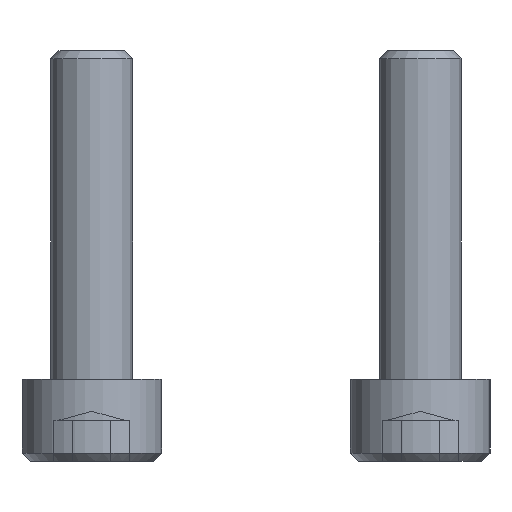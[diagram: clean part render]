
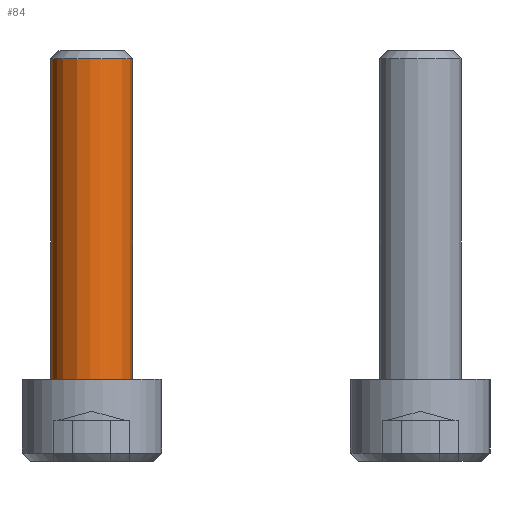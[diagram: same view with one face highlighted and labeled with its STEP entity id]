
A CAD part, left-side view. The second image highlights one B-rep face of the part: STEP entity #84.
In plain terms, the highlighted free-form (B-spline) face has degree [2, 1] with [9, 2] control points.
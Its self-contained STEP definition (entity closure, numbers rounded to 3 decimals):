
#84=ADVANCED_FACE('',(#159),#2228,.T.);
#159=FACE_OUTER_BOUND('',#234,.T.);
#234=EDGE_LOOP('',(#379,#380,#381,#382));
#379=ORIENTED_EDGE('',*,*,#1544,.F.);
#380=ORIENTED_EDGE('',*,*,#1587,.T.);
#381=ORIENTED_EDGE('',*,*,#1546,.F.);
#382=ORIENTED_EDGE('',*,*,#1586,.F.);
#644=(
BOUNDED_CURVE()
B_SPLINE_CURVE(2,(#2929,#2930,#2931,#2932,#2933),.UNSPECIFIED.,.F.,.F.)
B_SPLINE_CURVE_WITH_KNOTS((3,2,3),(-7.854,-3.927,0.),
 .UNSPECIFIED.)
CURVE()
GEOMETRIC_REPRESENTATION_ITEM()
RATIONAL_B_SPLINE_CURVE((1.,0.707,1.,0.707,1.))
REPRESENTATION_ITEM('')
);
#645=(
BOUNDED_CURVE()
B_SPLINE_CURVE(2,(#2942,#2943,#2944,#2945,#2946),.UNSPECIFIED.,.F.,.F.)
B_SPLINE_CURVE_WITH_KNOTS((3,2,3),(-7.854,-3.927,0.),
 .UNSPECIFIED.)
CURVE()
GEOMETRIC_REPRESENTATION_ITEM()
RATIONAL_B_SPLINE_CURVE((1.,0.707,1.,0.707,1.))
REPRESENTATION_ITEM('')
);
#649=(
BOUNDED_CURVE()
B_SPLINE_CURVE(2,(#2968,#2969,#2970,#2971,#2972),.UNSPECIFIED.,.F.,.F.)
B_SPLINE_CURVE_WITH_KNOTS((3,2,3),(-7.854,-3.927,0.),
 .UNSPECIFIED.)
CURVE()
GEOMETRIC_REPRESENTATION_ITEM()
RATIONAL_B_SPLINE_CURVE((1.,0.707,1.,0.707,1.))
REPRESENTATION_ITEM('')
);
#735=PCURVE('',#2223,#1059);
#737=PCURVE('',#2223,#1061);
#808=PCURVE('',#2227,#1132);
#811=PCURVE('',#2228,#1135);
#812=PCURVE('',#2228,#1136);
#813=PCURVE('',#2228,#1137);
#814=PCURVE('',#2228,#1138);
#817=PCURVE('',#2189,#1141);
#1059=DEFINITIONAL_REPRESENTATION('',(#1712),#4285);
#1061=DEFINITIONAL_REPRESENTATION('',(#1715),#4285);
#1132=DEFINITIONAL_REPRESENTATION('',(#1804),#4285);
#1135=DEFINITIONAL_REPRESENTATION('',(#1807),#4285);
#1136=DEFINITIONAL_REPRESENTATION('',(#1808),#4285);
#1137=DEFINITIONAL_REPRESENTATION('',(#1809),#4285);
#1138=DEFINITIONAL_REPRESENTATION('',(#1810),#4285);
#1141=DEFINITIONAL_REPRESENTATION('',(#649),#4285);
#1382=SURFACE_CURVE('',#1711,(#735,#811),.PCURVE_S1.);
#1384=SURFACE_CURVE('',#1714,(#737,#813),.PCURVE_S1.);
#1424=SURFACE_CURVE('',#644,(#808,#814),.PCURVE_S1.);
#1425=SURFACE_CURVE('',#645,(#812,#817),.PCURVE_S1.);
#1544=EDGE_CURVE('',#2083,#2084,#1382,.T.);
#1546=EDGE_CURVE('',#2085,#2086,#1384,.T.);
#1586=EDGE_CURVE('',#2084,#2085,#1424,.T.);
#1587=EDGE_CURVE('',#2083,#2086,#1425,.T.);
#1711=B_SPLINE_CURVE_WITH_KNOTS('',1,(#2665,#2666),.UNSPECIFIED.,.F.,.F.,
(2,2),(-19.51,0.),.UNSPECIFIED.);
#1712=B_SPLINE_CURVE_WITH_KNOTS('',1,(#2667,#2668),.UNSPECIFIED.,.F.,.F.,
(2,2),(-19.51,0.),.UNSPECIFIED.);
#1714=B_SPLINE_CURVE_WITH_KNOTS('',1,(#2676,#2677),.UNSPECIFIED.,.F.,.F.,
(2,2),(-19.51,0.),.UNSPECIFIED.);
#1715=B_SPLINE_CURVE_WITH_KNOTS('',1,(#2678,#2679),.UNSPECIFIED.,.F.,.F.,
(2,2),(-19.51,0.),.UNSPECIFIED.);
#1804=B_SPLINE_CURVE_WITH_KNOTS('',1,(#2934,#2935),.UNSPECIFIED.,.F.,.F.,
(2,2),(-7.854,0.),.UNSPECIFIED.);
#1807=B_SPLINE_CURVE_WITH_KNOTS('',1,(#2940,#2941),.UNSPECIFIED.,.F.,.F.,
(2,2),(-19.51,0.),.UNSPECIFIED.);
#1808=B_SPLINE_CURVE_WITH_KNOTS('',1,(#2947,#2948),.UNSPECIFIED.,.F.,.F.,
(2,2),(-7.854,0.),.UNSPECIFIED.);
#1809=B_SPLINE_CURVE_WITH_KNOTS('',1,(#2949,#2950),.UNSPECIFIED.,.F.,.F.,
(2,2),(-19.51,0.),.UNSPECIFIED.);
#1810=B_SPLINE_CURVE_WITH_KNOTS('',1,(#2951,#2952),.UNSPECIFIED.,.F.,.F.,
(2,2),(-7.854,0.),.UNSPECIFIED.);
#2083=VERTEX_POINT('',#2599);
#2084=VERTEX_POINT('',#2600);
#2085=VERTEX_POINT('',#2601);
#2086=VERTEX_POINT('',#2602);
#2189=PLANE('',#2306);
#2223=(
BOUNDED_SURFACE()
B_SPLINE_SURFACE(2,1,((#2434,#2435),(#2436,#2437),(#2438,#2439),(#2440,#2441),
(#2442,#2443),(#2444,#2445),(#2446,#2447),(#2448,#2449),(#2450,#2451)),
 .UNSPECIFIED.,.T.,.F.,.F.)
B_SPLINE_SURFACE_WITH_KNOTS((3,2,2,2,3),(2,2),(0.,1.571,3.142,
4.712,6.283),(0.,23.414),.UNSPECIFIED.)
GEOMETRIC_REPRESENTATION_ITEM()
RATIONAL_B_SPLINE_SURFACE(((1.,1.),(0.707,0.707),
(1.,1.),(0.707,0.707),(1.,1.),(0.707,
0.707),(1.,1.),(0.707,0.707),(1.,1.)))
REPRESENTATION_ITEM('')
SURFACE()
);
#2227=(
BOUNDED_SURFACE()
B_SPLINE_SURFACE(2,1,((#2519,#2520),(#2521,#2522),(#2523,#2524),(#2525,#2526),
(#2527,#2528),(#2529,#2530),(#2531,#2532),(#2533,#2534),(#2535,#2536)),
 .UNSPECIFIED.,.T.,.F.,.F.)
B_SPLINE_SURFACE_WITH_KNOTS((3,2,2,2,3),(2,2),(0.,1.571,3.142,
4.712,6.283),(0.,3.891),.UNSPECIFIED.)
GEOMETRIC_REPRESENTATION_ITEM()
RATIONAL_B_SPLINE_SURFACE(((1.,1.),(0.707,0.707),
(1.,1.),(0.707,0.707),(1.,1.),(0.707,
0.707),(1.,1.),(0.707,0.707),(1.,1.)))
REPRESENTATION_ITEM('')
SURFACE()
);
#2228=(
BOUNDED_SURFACE()
B_SPLINE_SURFACE(2,1,((#2537,#2538),(#2539,#2540),(#2541,#2542),(#2543,#2544),
(#2545,#2546),(#2547,#2548),(#2549,#2550),(#2551,#2552),(#2553,#2554)),
 .UNSPECIFIED.,.T.,.F.,.F.)
B_SPLINE_SURFACE_WITH_KNOTS((3,2,2,2,3),(2,2),(0.,1.571,3.142,
4.712,6.283),(0.,23.414),.UNSPECIFIED.)
GEOMETRIC_REPRESENTATION_ITEM()
RATIONAL_B_SPLINE_SURFACE(((1.,1.),(0.707,0.707),
(1.,1.),(0.707,0.707),(1.,1.),(0.707,
0.707),(1.,1.),(0.707,0.707),(1.,1.)))
REPRESENTATION_ITEM('')
SURFACE()
);
#2306=AXIS2_PLACEMENT_3D('',#2555,#2358,$);
#2358=DIRECTION('',(1.,0.,0.));
#2434=CARTESIAN_POINT('',(-1.952,0.,2.5));
#2435=CARTESIAN_POINT('',(21.462,0.,2.5));
#2436=CARTESIAN_POINT('',(-1.952,-2.5,2.5));
#2437=CARTESIAN_POINT('',(21.462,-2.5,2.5));
#2438=CARTESIAN_POINT('',(-1.952,-2.5,0.));
#2439=CARTESIAN_POINT('',(21.462,-2.5,0.));
#2440=CARTESIAN_POINT('',(-1.952,-2.5,-2.5));
#2441=CARTESIAN_POINT('',(21.462,-2.5,-2.5));
#2442=CARTESIAN_POINT('',(-1.952,0.,-2.5));
#2443=CARTESIAN_POINT('',(21.462,0.,-2.5));
#2444=CARTESIAN_POINT('',(-1.952,2.5,-2.5));
#2445=CARTESIAN_POINT('',(21.462,2.5,-2.5));
#2446=CARTESIAN_POINT('',(-1.952,2.5,0.));
#2447=CARTESIAN_POINT('',(21.462,2.5,0.));
#2448=CARTESIAN_POINT('',(-1.952,2.5,2.5));
#2449=CARTESIAN_POINT('',(21.462,2.5,2.5));
#2450=CARTESIAN_POINT('',(-1.952,0.,2.5));
#2451=CARTESIAN_POINT('',(21.462,0.,2.5));
#2519=CARTESIAN_POINT('',(22.01,0.,0.));
#2520=CARTESIAN_POINT('',(19.258,0.,-2.751));
#2521=CARTESIAN_POINT('',(22.01,0.,0.));
#2522=CARTESIAN_POINT('',(19.258,-2.751,-2.751));
#2523=CARTESIAN_POINT('',(22.01,0.,0.));
#2524=CARTESIAN_POINT('',(19.258,-2.751,0.));
#2525=CARTESIAN_POINT('',(22.01,0.,0.));
#2526=CARTESIAN_POINT('',(19.258,-2.751,2.751));
#2527=CARTESIAN_POINT('',(22.01,0.,0.));
#2528=CARTESIAN_POINT('',(19.258,0.,2.751));
#2529=CARTESIAN_POINT('',(22.01,0.,0.));
#2530=CARTESIAN_POINT('',(19.258,2.751,2.751));
#2531=CARTESIAN_POINT('',(22.01,0.,0.));
#2532=CARTESIAN_POINT('',(19.258,2.751,0.));
#2533=CARTESIAN_POINT('',(22.01,0.,0.));
#2534=CARTESIAN_POINT('',(19.258,2.751,-2.751));
#2535=CARTESIAN_POINT('',(22.01,0.,0.));
#2536=CARTESIAN_POINT('',(19.258,0.,-2.751));
#2537=CARTESIAN_POINT('',(-1.952,0.,-2.5));
#2538=CARTESIAN_POINT('',(21.462,0.,-2.5));
#2539=CARTESIAN_POINT('',(-1.952,2.5,-2.5));
#2540=CARTESIAN_POINT('',(21.462,2.5,-2.5));
#2541=CARTESIAN_POINT('',(-1.952,2.5,0.));
#2542=CARTESIAN_POINT('',(21.462,2.5,0.));
#2543=CARTESIAN_POINT('',(-1.952,2.5,2.5));
#2544=CARTESIAN_POINT('',(21.462,2.5,2.5));
#2545=CARTESIAN_POINT('',(-1.952,0.,2.5));
#2546=CARTESIAN_POINT('',(21.462,0.,2.5));
#2547=CARTESIAN_POINT('',(-1.952,-2.5,2.5));
#2548=CARTESIAN_POINT('',(21.462,-2.5,2.5));
#2549=CARTESIAN_POINT('',(-1.952,-2.5,0.));
#2550=CARTESIAN_POINT('',(21.462,-2.5,0.));
#2551=CARTESIAN_POINT('',(-1.952,-2.5,-2.5));
#2552=CARTESIAN_POINT('',(21.462,-2.5,-2.5));
#2553=CARTESIAN_POINT('',(-1.952,0.,-2.5));
#2554=CARTESIAN_POINT('',(21.462,0.,-2.5));
#2555=CARTESIAN_POINT('',(0.,5.101,5.101));
#2599=CARTESIAN_POINT('',(0.,2.5,0.));
#2600=CARTESIAN_POINT('',(19.51,2.5,0.));
#2601=CARTESIAN_POINT('',(19.51,-2.5,0.));
#2602=CARTESIAN_POINT('',(0.,-2.5,0.));
#2665=CARTESIAN_POINT('',(0.,2.5,0.));
#2666=CARTESIAN_POINT('',(19.51,2.5,0.));
#2667=CARTESIAN_POINT('',(4.712,1.952));
#2668=CARTESIAN_POINT('',(4.712,21.462));
#2676=CARTESIAN_POINT('',(19.51,-2.5,0.));
#2677=CARTESIAN_POINT('',(0.,-2.5,0.));
#2678=CARTESIAN_POINT('',(1.571,21.462));
#2679=CARTESIAN_POINT('',(1.571,1.952));
#2929=CARTESIAN_POINT('',(19.51,2.5,0.));
#2930=CARTESIAN_POINT('',(19.51,2.5,2.5));
#2931=CARTESIAN_POINT('',(19.51,0.,2.5));
#2932=CARTESIAN_POINT('',(19.51,-2.5,2.5));
#2933=CARTESIAN_POINT('',(19.51,-2.5,0.));
#2934=CARTESIAN_POINT('',(4.712,3.536));
#2935=CARTESIAN_POINT('',(1.571,3.536));
#2940=CARTESIAN_POINT('',(1.571,1.952));
#2941=CARTESIAN_POINT('',(1.571,21.462));
#2942=CARTESIAN_POINT('',(0.,2.5,0.));
#2943=CARTESIAN_POINT('',(0.,2.5,2.5));
#2944=CARTESIAN_POINT('',(0.,0.,2.5));
#2945=CARTESIAN_POINT('',(0.,-2.5,2.5));
#2946=CARTESIAN_POINT('',(0.,-2.5,0.));
#2947=CARTESIAN_POINT('',(1.571,1.952));
#2948=CARTESIAN_POINT('',(4.712,1.952));
#2949=CARTESIAN_POINT('',(4.712,21.462));
#2950=CARTESIAN_POINT('',(4.712,1.952));
#2951=CARTESIAN_POINT('',(1.571,21.462));
#2952=CARTESIAN_POINT('',(4.712,21.462));
#2968=CARTESIAN_POINT('',(0.875,0.));
#2969=CARTESIAN_POINT('',(0.875,-2.5));
#2970=CARTESIAN_POINT('',(3.375,-2.5));
#2971=CARTESIAN_POINT('',(5.875,-2.5));
#2972=CARTESIAN_POINT('',(5.875,0.));
#4285=(
GEOMETRIC_REPRESENTATION_CONTEXT(2)
PARAMETRIC_REPRESENTATION_CONTEXT()
REPRESENTATION_CONTEXT('pspace','')
);
